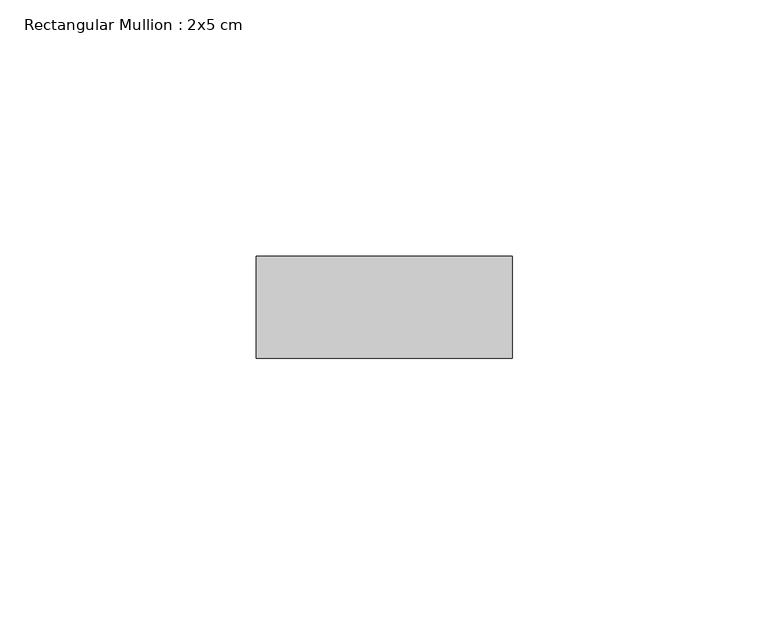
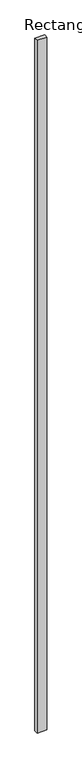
"""IFC4 building model written with IfcOpenShell, lengths in millimetres: member geometry, Rectangular Mullion : 2x5 cm."""

from ifc_helpers import new_model, si_unit, frame, origin, place, context, project, spatial, polyline, outline, extrude, source, transform, mapped, element, save


def rectangular_mullion_2x5_cm_68f2fa33(model_context):
    return source(origin(), model_context, "Body", "SweptSolid", [
        extrude(outline(polyline([(50.0, 20.0), (50.0, 0.0), (0.0, 0.0), (0.0, 20.0), (50.0, 20.0)])), frame((0.0, 0.0, -3748.6714597), z_axis=(0.0, 0.0, 1.0), x_axis=(1.0, 0.0, 0.0)), (0.0, 0.0, 1.0), 3748.6714597),
    ])


if __name__ == "__main__":
    model = new_model("IFC4")
    model_context = context("Model", 3, world=origin())
    ifc_project = project(units=[si_unit("LENGTHUNIT", "METRE", prefix="MILLI")], contexts=[model_context])
    site = spatial("IfcSite", under=ifc_project)
    building = spatial("IfcBuilding", under=site)
    placement = place(None, origin())
    rectangular_mullion_2x5_cm_shape = rectangular_mullion_2x5_cm_68f2fa33(model_context)
    element("IfcMember", 1, ObjectType="Rectangular Mullion : 2x5 cm", at=placement, inside=building, context=model_context, shape_type="MappedRepresentation", body=[
        mapped(rectangular_mullion_2x5_cm_shape, transform((0.0, 0.0, 0.0), x_axis=(1.0, 0.0, 0.0), y_axis=(0.0, 1.0, 0.0), z_axis=(0.0, 0.0, 1.0))),
    ])
    save(model, "model.ifc")
